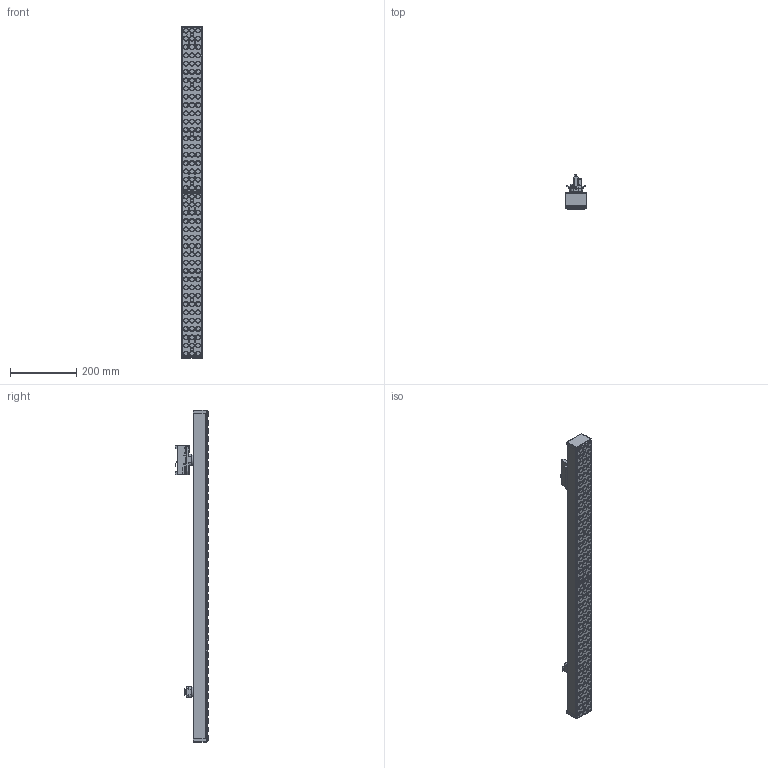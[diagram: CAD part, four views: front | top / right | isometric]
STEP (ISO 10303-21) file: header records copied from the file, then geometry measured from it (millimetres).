
FILE_DESCRIPTION(/* description */ (''),/* implementation_level */ '2;1');
FILE_NAME(/* name */ 'LUMI_TRACK_LUT10.stp',/* time_stamp */ '2025-10-01T15:19:11+02:00',/* author */ ('gian.noche'),/* organization */ (''),/* preprocessor_version */ 'ST-DEVELOPER v19.2',/* originating_system */ 'Autodesk Inventor 2023',/* authorisation */ '');
FILE_SCHEMA (('AUTOMOTIVE_DESIGN { 1 0 10303 214 3 1 1 }'));
Length unit declared in the file: millimetre
Products named in the file (1): IDP_27_LUMI_TRACK_1000_Semplifica_1
Bounding box: 65 x 101.75 x 1001 mm (x, y, z)
Volume: 522796.6 mm3; surface area: 386117.7 mm2
Topology: 3 solids, 3 shells, 1125 faces, 2781 edges, 1799 vertices
Faces by surface type: plane 585, cylinder 335, torus 135, bspline 60, cone 10
Full cylindrical faces by diameter (mm): 4.4 x3, 4.5 x3, 11.5 x1, 15 x120, 23.319 x1, 24.8 x2, 32 x1
Entity records: 37572 total; most frequent: CARTESIAN_POINT 9974, DIRECTION 6117, ORIENTED_EDGE 5558, EDGE_CURVE 2779, AXIS2_PLACEMENT_3D 2320, VERTEX_POINT 1799, LINE 1477, VECTOR 1477
